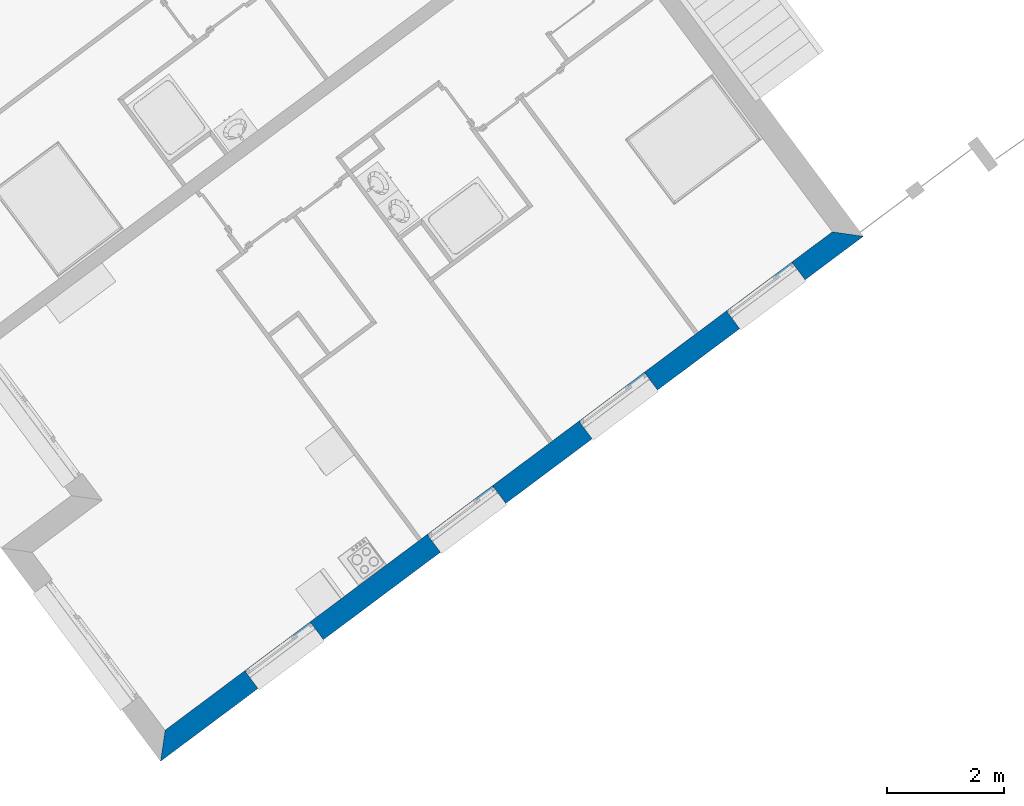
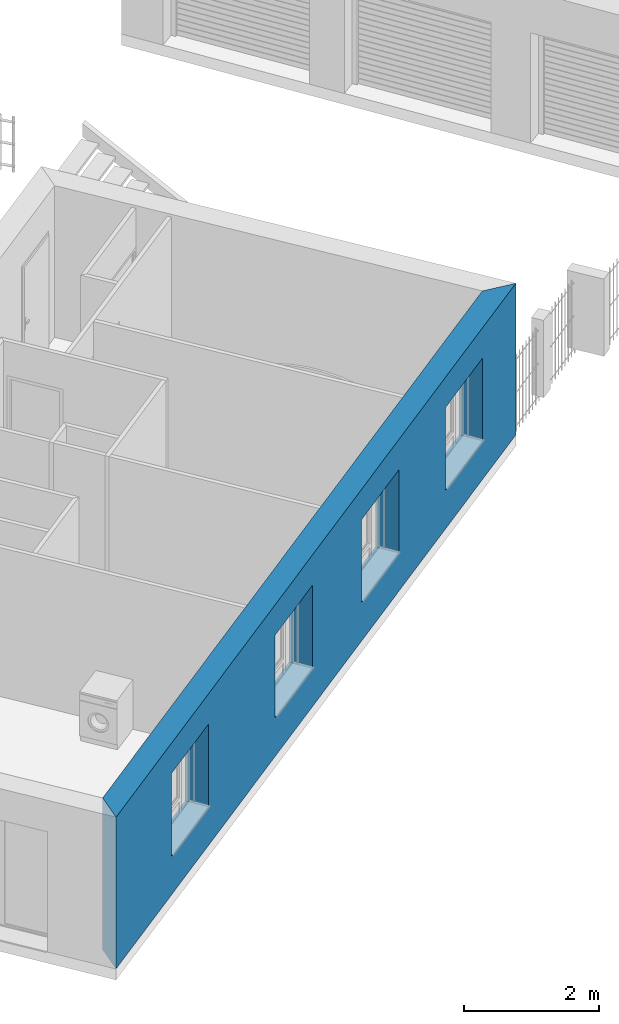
# One storey, part 8 of 195: 1 wall, 4 openings.
"""IFC2X3 building model written with IfcOpenShell, lengths in metres."""

from ifc_helpers import new_model, entity, si_unit, converted_unit, derived_unit, money_unit, direction, frame, origin_with_axes, place, context, subcontext, project, spatial, polyline, outline, extrude, faceted_brep, material, layer, layer_set, layer_usage, type_object, element, save


model = new_model("IFC2X3")

# Units and contexts
model_context = context("Model", 3, precision=1e-05, world=origin_with_axes(), true_north=direction((0.0, 1.0)))
body_context = subcontext(model_context, "Body", "Model", "MODEL_VIEW")
ifc_project = project(units=[si_unit("LENGTHUNIT", "METRE"), si_unit("AREAUNIT", "SQUARE_METRE"), si_unit("VOLUMEUNIT", "CUBIC_METRE"), converted_unit("PLANEANGLEUNIT", "DEGREE", entity("IfcPlaneAngleMeasure", 0.0174532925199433), si_unit("PLANEANGLEUNIT", "RADIAN"), dimensions=[0, 0, 0, 0, 0, 0, 0]), money_unit("CHF"), converted_unit("TIMEUNIT", "Year", entity("IfcTimeMeasure", 31557600.0), si_unit("TIMEUNIT", "SECOND"), dimensions=[0, 0, 1, 0, 0, 0, 0]), si_unit("MASSUNIT", "GRAM", prefix="KILO"), si_unit("THERMODYNAMICTEMPERATUREUNIT", "DEGREE_CELSIUS"), si_unit("LUMINOUSINTENSITYUNIT", "LUMEN"), si_unit("ENERGYUNIT", "JOULE", prefix="MEGA"), derived_unit("THERMALCONDUCTANCEUNIT", [(si_unit("POWERUNIT", "WATT"), 1), (si_unit("LENGTHUNIT", "METRE"), -1), (si_unit("THERMODYNAMICTEMPERATUREUNIT", "KELVIN"), -1)]), derived_unit("SPECIFICHEATCAPACITYUNIT", [(si_unit("ENERGYUNIT", "JOULE"), 1), (si_unit("MASSUNIT", "GRAM", prefix="KILO"), -1), (si_unit("THERMODYNAMICTEMPERATUREUNIT", "KELVIN"), -1)]), derived_unit("MASSDENSITYUNIT", [(si_unit("MASSUNIT", "GRAM", prefix="KILO"), 1), (si_unit("VOLUMEUNIT", "CUBIC_METRE"), -1)])], contexts=[model_context])

# Site, building, storey
site_placement = place(None, origin_with_axes())
site = spatial("IfcSite", under=ifc_project, at=site_placement, Name="Site", CompositionType="ELEMENT")
building_placement = place(site_placement, origin_with_axes())
building = spatial("IfcBuilding", under=site, at=building_placement, Name="Bâtiment", CompositionType="ELEMENT")
storey_placement = place(building_placement, origin_with_axes())
storey = spatial("IfcBuildingStorey", under=building, at=storey_placement, Name="rdc", CompositionType="ELEMENT", Elevation=0.0)

# Wall, openings
ifc_material_1 = material(Name="Parpaing 312445824")
ifc_layer_1 = layer(ifc_material_1, 0.22, ventilated="UNKNOWN")
ifc_material_2 = material(Name="Isolant styromousse 301821074")
ifc_layer_2 = layer(ifc_material_2, 0.16, ventilated="UNKNOWN")
ifc_layer_set = layer_set([ifc_layer_1, ifc_layer_2], Name="isol int 22+16 0836643197")
ifc_layer_usage = layer_usage(ifc_layer_set, "AXIS2", "NEGATIVE", 0.0)
wall_type = type_object("IfcWallType", Name="isol int 22+16 0836643197 380", PredefinedType="NOTDEFINED")
wall_placement = place(storey_placement, frame((9547.692042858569, -1080.029617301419, 57.7), z_axis=(0.0, 0.0, 1.0), x_axis=(-0.8011628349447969, -0.598446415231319, 0.0)))
wall = element("IfcWallStandardCase", 1, at=wall_placement, inside=storey, type_object=wall_type, material=ifc_layer_usage, Name="Mur-114", context=body_context, shape_type="SweptSolid", body=[
    extrude(outline(polyline([(0.3799999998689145, -0.3799999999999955), (14.66313195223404, -0.3800000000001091), (15.04313195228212, 0.0), (0.0, 0.0), (0.3799999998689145, -0.3799999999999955)])), origin_with_axes(), (0.0, 0.0, 1.0), 2.75),
])
opening_1_placement = place(wall_placement, frame((5.105816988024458, 0.0, 0.7000000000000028), z_axis=(0.0, 0.0, 1.0), x_axis=(1.0, 0.0, 0.0)))
element("IfcOpeningElement", 2, at=opening_1_placement, cuts=wall, Name="Fen-045", context=body_context, shape_type="Brep", body=[
    faceted_brep([(-0.6999999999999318, -0.2999999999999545, 1.5), (-0.6999999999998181, -0.2200000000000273, 1.5), (-0.6999999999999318, 7.213475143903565, 1.5), (-0.6999999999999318, 7.213475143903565, 0.0), (-0.7000000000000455, -0.2999999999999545, 0.0), (-0.6999999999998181, -0.4800000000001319, 1.5), (-0.6999999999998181, -0.4800000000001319, 1.700000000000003), (-0.6999999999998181, -0.2200000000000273, 1.700000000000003), (0.7000000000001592, -0.2200000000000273, 1.5), (0.7000000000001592, 7.213475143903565, 1.5), (0.7000000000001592, 7.213475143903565, 0.0), (0.7000000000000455, -0.2999999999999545, 0.0), (-0.7000000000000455, -7.593475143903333, 0.0), (-0.7000000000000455, -7.593475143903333, 1.5), (0.7000000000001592, -0.4800000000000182, 1.5), (0.7000000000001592, -0.4800000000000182, 1.700000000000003), (0.7000000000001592, -0.2200000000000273, 1.700000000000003), (0.7000000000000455, -0.2999999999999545, 1.5), (0.7000000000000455, -7.593475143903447, 0.0), (0.7000000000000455, -7.593475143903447, 1.5)], [[[0, 1, 2, 3, 4]], [[1, 0, 5, 6, 7]], [[1, 8, 9, 2]], [[9, 10, 3, 2]], [[11, 4, 3, 10]], [[5, 0, 4, 12, 13]], [[5, 14, 15, 6]], [[7, 6, 15, 16]], [[8, 1, 7, 16]], [[8, 17, 11, 10, 9]], [[4, 11, 18, 12]], [[13, 12, 18, 19]], [[14, 5, 13, 19]], [[17, 8, 16, 15, 14]], [[17, 14, 19, 18, 11]]]),
])
opening_2_placement = place(wall_placement, frame((12.25767498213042, 0.0, 0.7000000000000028), z_axis=(0.0, 0.0, 1.0), x_axis=(1.0, 0.0, 0.0)))
element("IfcOpeningElement", 3, at=opening_2_placement, cuts=wall, Name="Fen-045", context=body_context, shape_type="Brep", body=[
    faceted_brep([(-0.6999999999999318, -0.3000000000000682, 1.5), (-0.6999999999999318, -0.220000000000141, 1.5), (-0.6999999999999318, 7.213475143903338, 1.5), (-0.6999999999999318, 7.213475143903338, 0.0), (-0.7000000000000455, -0.3000000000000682, 0.0), (-0.7000000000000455, -0.4800000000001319, 1.5), (-0.7000000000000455, -0.4800000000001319, 1.700000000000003), (-0.6999999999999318, -0.220000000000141, 1.700000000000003), (0.7000000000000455, -0.220000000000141, 1.5), (0.6999999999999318, 7.213475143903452, 1.5), (0.6999999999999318, 7.213475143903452, 0.0), (0.6999999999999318, -0.3000000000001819, 0.0), (-0.7000000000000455, -7.593475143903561, 0.0), (-0.7000000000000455, -7.593475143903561, 1.5), (0.7000000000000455, -0.4800000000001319, 1.5), (0.7000000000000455, -0.4800000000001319, 1.700000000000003), (0.7000000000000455, -0.220000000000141, 1.700000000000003), (0.6999999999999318, -0.3000000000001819, 1.5), (0.7000000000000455, -7.593475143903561, 0.0), (0.7000000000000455, -7.593475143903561, 1.5)], [[[0, 1, 2, 3, 4]], [[1, 0, 5, 6, 7]], [[1, 8, 9, 2]], [[9, 10, 3, 2]], [[11, 4, 3, 10]], [[5, 0, 4, 12, 13]], [[5, 14, 15, 6]], [[7, 6, 15, 16]], [[8, 1, 7, 16]], [[8, 17, 11, 10, 9]], [[4, 11, 18, 12]], [[13, 12, 18, 19]], [[14, 5, 13, 19]], [[17, 8, 16, 15, 14]], [[17, 14, 19, 18, 11]]]),
])
opening_3_placement = place(wall_placement, frame((1.94801261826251, 0.0, 0.7000000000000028), z_axis=(0.0, 0.0, 1.0), x_axis=(1.0, 0.0, 0.0)))
element("IfcOpeningElement", 4, at=opening_3_placement, cuts=wall, Name="Fen-045", context=body_context, shape_type="Brep", body=[
    faceted_brep([(-0.6999999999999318, -0.3000000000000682, 1.5), (-0.6999999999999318, -0.2200000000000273, 1.5), (-0.6999999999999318, 7.213475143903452, 1.5), (-0.6999999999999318, 7.213475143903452, 0.0), (-0.6999999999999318, -0.2999999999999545, 0.0), (-0.6999999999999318, -0.4800000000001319, 1.5), (-0.6999999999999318, -0.4800000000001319, 1.700000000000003), (-0.6999999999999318, -0.2200000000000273, 1.700000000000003), (0.7000000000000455, -0.220000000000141, 1.5), (0.7000000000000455, 7.213475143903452, 1.5), (0.7000000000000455, 7.213475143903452, 0.0), (0.7000000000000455, -0.2999999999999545, 0.0), (-0.6999999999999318, -7.593475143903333, 0.0), (-0.6999999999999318, -7.593475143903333, 1.5), (0.7000000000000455, -0.4800000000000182, 1.5), (0.7000000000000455, -0.4800000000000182, 1.700000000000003), (0.7000000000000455, -0.220000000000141, 1.700000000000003), (0.7000000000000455, -0.2999999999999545, 1.5), (0.7000000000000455, -7.593475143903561, 0.0), (0.7000000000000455, -7.593475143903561, 1.5)], [[[0, 1, 2, 3, 4]], [[1, 0, 5, 6, 7]], [[1, 8, 9, 2]], [[9, 10, 3, 2]], [[11, 4, 3, 10]], [[5, 0, 4, 12, 13]], [[5, 14, 15, 6]], [[7, 6, 15, 16]], [[8, 1, 7, 16]], [[8, 17, 11, 10, 9]], [[4, 11, 18, 12]], [[13, 12, 18, 19]], [[14, 5, 13, 19]], [[17, 8, 16, 15, 14]], [[17, 14, 19, 18, 11]]]),
])
opening_4_placement = place(wall_placement, frame((8.353986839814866, 0.0, 0.7000000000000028), z_axis=(0.0, 0.0, 1.0), x_axis=(1.0, 0.0, 0.0)))
element("IfcOpeningElement", 5, at=opening_4_placement, cuts=wall, Name="Fen-045", context=body_context, shape_type="Brep", body=[
    faceted_brep([(-0.6999999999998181, -0.2999999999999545, 1.5), (-0.6999999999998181, -0.2200000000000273, 1.5), (-0.6999999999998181, 7.213475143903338, 1.5), (-0.6999999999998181, 7.213475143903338, 0.0), (-0.7000000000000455, -0.2999999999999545, 0.0), (-0.6999999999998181, -0.4800000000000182, 1.5), (-0.6999999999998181, -0.4800000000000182, 1.700000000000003), (-0.6999999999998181, -0.2200000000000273, 1.700000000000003), (0.7000000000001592, -0.2200000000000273, 1.5), (0.7000000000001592, 7.213475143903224, 1.5), (0.7000000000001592, 7.213475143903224, 0.0), (0.7000000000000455, -0.2999999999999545, 0.0), (-0.6999999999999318, -7.593475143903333, 0.0), (-0.6999999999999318, -7.593475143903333, 1.5), (0.7000000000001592, -0.4799999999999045, 1.5), (0.7000000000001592, -0.4799999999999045, 1.700000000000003), (0.7000000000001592, -0.2200000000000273, 1.700000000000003), (0.7000000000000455, -0.2999999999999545, 1.5), (0.7000000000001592, -7.593475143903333, 0.0), (0.7000000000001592, -7.593475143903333, 1.5)], [[[0, 1, 2, 3, 4]], [[1, 0, 5, 6, 7]], [[1, 8, 9, 2]], [[9, 10, 3, 2]], [[11, 4, 3, 10]], [[5, 0, 4, 12, 13]], [[5, 14, 15, 6]], [[7, 6, 15, 16]], [[8, 1, 7, 16]], [[8, 17, 11, 10, 9]], [[4, 11, 18, 12]], [[13, 12, 18, 19]], [[14, 5, 13, 19]], [[17, 8, 16, 15, 14]], [[17, 14, 19, 18, 11]]]),
])

save(model, "model.ifc")
